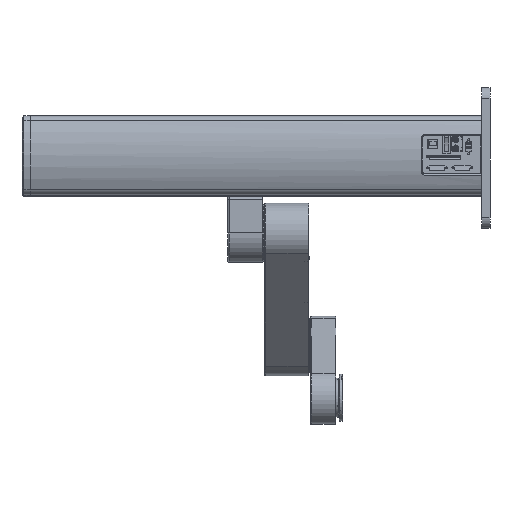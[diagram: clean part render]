
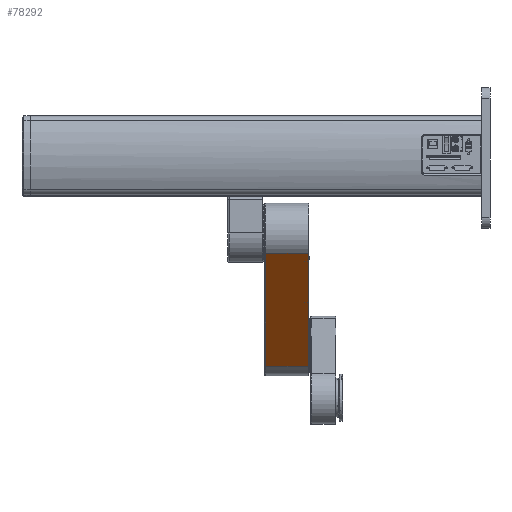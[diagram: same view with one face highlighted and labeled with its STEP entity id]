
A CAD part, left-side view. The second image highlights one B-rep face of the part: STEP entity #78292.
In plain terms, the highlighted planar face has unit normal (-0.728, 0, -0.686) as drawn and (1, -0.003, 0) by its records, which use the part's own axes.
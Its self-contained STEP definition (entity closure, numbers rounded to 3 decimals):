
#303 = FACE_OUTER_BOUND ( 'NONE', #525, .T. ) ;
#525 = EDGE_LOOP ( 'NONE', ( #10354, #113441, #5027, #68677 ) ) ;
#1824 = VERTEX_POINT ( 'NONE', #121089 ) ;
#2078 = EDGE_CURVE ( 'NONE', #71799, #1824, #69585, .T. ) ;
#5027 = ORIENTED_EDGE ( 'NONE', *, *, #59326, .F. ) ;
#10354 = ORIENTED_EDGE ( 'NONE', *, *, #2078, .F. ) ;
#10915 = CARTESIAN_POINT ( 'NONE',  ( 35.111, 470.033, 338.79 ) ) ;
#14078 = VERTEX_POINT ( 'NONE', #44020 ) ;
#22525 = VECTOR ( 'NONE', #76847, 1000. ) ;
#29155 = EDGE_CURVE ( 'NONE', #14078, #71799, #120090, .T. ) ;
#30407 = VECTOR ( 'NONE', #76636, 1000. ) ;
#35221 = PLANE ( 'NONE',  #87455 ) ;
#37999 = LINE ( 'NONE', #64067, #114585 ) ;
#40707 = CARTESIAN_POINT ( 'NONE',  ( 35.111, 470.033, 263.29 ) ) ;
#44020 = CARTESIAN_POINT ( 'NONE',  ( 35.111, 470.033, 338.79 ) ) ;
#54178 = DIRECTION ( 'NONE',  ( 0., 0., 1. ) ) ;
#59326 = EDGE_CURVE ( 'NONE', #68712, #14078, #95137, .T. ) ;
#64067 = CARTESIAN_POINT ( 'NONE',  ( 34.322, 195.035, 259.79 ) ) ;
#64513 = EDGE_CURVE ( 'NONE', #1824, #68712, #37999, .T. ) ;
#68677 = ORIENTED_EDGE ( 'NONE', *, *, #64513, .F. ) ;
#68712 = VERTEX_POINT ( 'NONE', #77329 ) ;
#69585 = LINE ( 'NONE', #95377, #22525 ) ;
#71799 = VERTEX_POINT ( 'NONE', #40707 ) ;
#72200 = CARTESIAN_POINT ( 'NONE',  ( 35.111, 470.033, 259.79 ) ) ;
#74810 = DIRECTION ( 'NONE',  ( 0., 0., -1. ) ) ;
#76434 = CARTESIAN_POINT ( 'NONE',  ( 35.111, 470.033, 259.79 ) ) ;
#76636 = DIRECTION ( 'NONE',  ( 0.003, 1., 0. ) ) ;
#76847 = DIRECTION ( 'NONE',  ( -0.003, -1., 0. ) ) ;
#77329 = CARTESIAN_POINT ( 'NONE',  ( 34.322, 195.035, 338.79 ) ) ;
#78292 = ADVANCED_FACE ( 'NONE', ( #303 ), #35221, .F. ) ;
#87455 = AXIS2_PLACEMENT_3D ( 'NONE', #72200, #100257, #54178 ) ;
#90480 = DIRECTION ( 'NONE',  ( 0., 0., 1. ) ) ;
#91961 = VECTOR ( 'NONE', #74810, 1000. ) ;
#95137 = LINE ( 'NONE', #10915, #30407 ) ;
#95377 = CARTESIAN_POINT ( 'NONE',  ( 35.111, 470.033, 263.29 ) ) ;
#100257 = DIRECTION ( 'NONE',  ( -1., 0.003, 0. ) ) ;
#113441 = ORIENTED_EDGE ( 'NONE', *, *, #29155, .F. ) ;
#114585 = VECTOR ( 'NONE', #90480, 1000. ) ;
#120090 = LINE ( 'NONE', #76434, #91961 ) ;
#121089 = CARTESIAN_POINT ( 'NONE',  ( 34.322, 195.035, 263.29 ) ) ;
